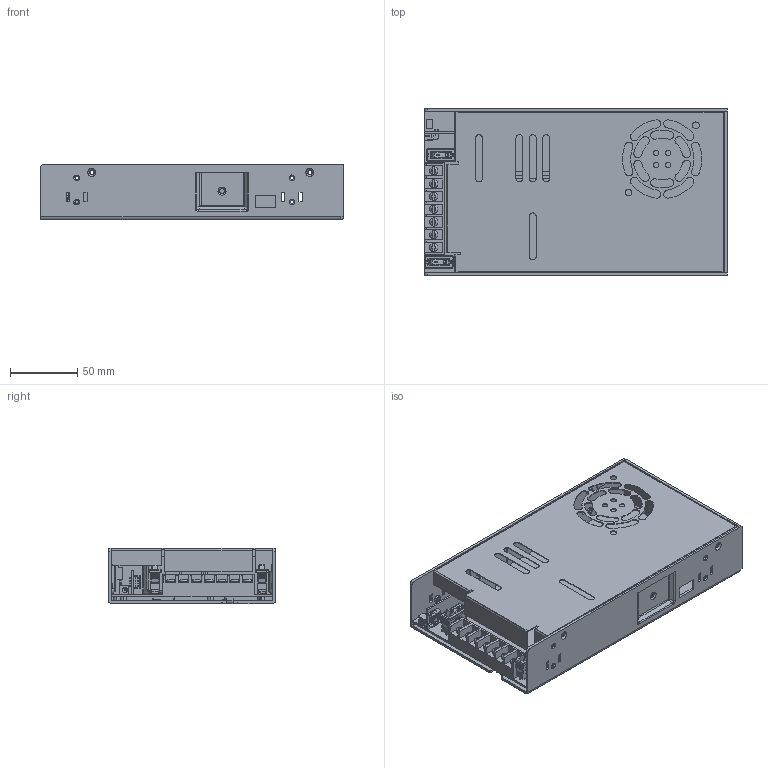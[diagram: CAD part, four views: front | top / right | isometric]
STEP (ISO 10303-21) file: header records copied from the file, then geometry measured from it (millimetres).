
FILE_DESCRIPTION(('Creo Elements/Direct Modeling STEP Export'),'2;1');
FILE_NAME('LAD-600.stp','2024-04-11T 9:49:09',(''),(''),'PTC Creo Elements/Direct Modeling STEP processor for AP214 (Solid Model)','PTC Creo Elements/Direct Modeling 19.0E 27-Jun-2016 (C) Parametric Technology GmbH','');
FILE_SCHEMA(('AUTOMOTIVE_DESIGN { 1 0 10303 214 1 1 1 1 }'));
Length unit declared in the file: millimetre
Products named in the file (42): LRS-600-D_1.PRT; LRS-600-T_1.PRT; PCB1_1_1.PRT; LRS-600_ASM_ASM_1.ASM; MOS15.5x10.1.1.1.1.1.1.1.1.1.1.1.1.1.1.1.1; 3024-K5P10T3SB05BKBK.prt; 开关; 开关左; PCBB.1; 零件1; GF063X_1-6550.PRT; GF063X_1-6890.ASM; ___.stp; 1GG1HS-SZ154_1-11310.ASM; 1GG1HS-SZ154.stp; 散热片; MOS15.5x10.1.1.1.1.1.1.1.1.1.1.1.1.1.1.1.1.1; MOS15.5x10.1.1.1.1.1.1.1.1.1.1.1.1.1.1.1.1.1.1; 装配1; MHS012_STP.ASM; MHS012-3D.stp; MHS012-3D.stp.1; PIN2-2; 零件2; LRS-600-20220302.stp; LAD-600.stp; EXTRUDED-116577.PRT; 1FF1-DH2L-04.ASM.10; EXTRUDED-118197.PRT; 1FF1-DH2L-04_2931611402.ASM.11; EXTRUDED-119827.PRT; 1FF1-DH2L-04_2895032743.ASM.12; EXTRUDED-122174.PRT; 1FF1-DH2L-04_3998119348.ASM; EXTRUDED-122858.PRT; 984338416.ASM; EXTRUDED-126350.PRT; 984338096.ASM; CN2.ASM; 8PIN__LAD-360.stp
Assembly tree (47 placements, depth 5):
  LAD-600.stp
    LRS-600-20220302.stp
      零件2
      PIN2-2
      MHS012-3D.stp.1
        MHS012_STP.ASM
      MHS012-3D.stp
        MHS012_STP.ASM
      装配1
        MOS15.5x10.1.1.1.1.1.1.1.1.1.1.1.1.1.1.1.1.1.1
        MOS15.5x10.1.1.1.1.1.1.1.1.1.1.1.1.1.1.1.1.1
        散热片
      1GG1HS-SZ154.stp
        1GG1HS-SZ154_1-11310.ASM
      ___.stp
        GF063X_1-6890.ASM
          GF063X_1-6550.PRT
      零件1
      PCBB.1
      开关左
        3024-K5P10T3SB05BKBK.prt
      开关
        3024-K5P10T3SB05BKBK.prt
      MOS15.5x10.1.1.1.1.1.1.1.1.1.1.1.1.1.1.1.1
      LRS-600_ASM_ASM_1.ASM
        PCB1_1_1.PRT
        LRS-600-T_1.PRT
        LRS-600-D_1.PRT
  8PIN__LAD-360.stp
    CN2.ASM
      984338096.ASM
        EXTRUDED-126350.PRT
      984338416.ASM
        EXTRUDED-122858.PRT
      1FF1-DH2L-04_3998119348.ASM
        EXTRUDED-122174.PRT
      1FF1-DH2L-04_2895032743.ASM.12  x2
        EXTRUDED-119827.PRT
      1FF1-DH2L-04_2931611402.ASM.11  x4
        EXTRUDED-118197.PRT
      1FF1-DH2L-04.ASM.10  x4
        EXTRUDED-116577.PRT
Bounding box: 225.16 x 124 x 41 mm (x, y, z)
Volume: 178174.5 mm3; surface area: 229814.4 mm2
Topology: 25 solids, 25 shells, 5734 faces, 16072 edges, 10579 vertices
Faces by surface type: plane 4918, cylinder 657, torus 90, bspline 27, cone 20, sphere 16, extrusion 6
Entity records: 217456 total; most frequent: CARTESIAN_POINT 33995, ORIENTED_EDGE 31392, DIRECTION 27668, EDGE_CURVE 15696, VECTOR 13926, LINE 13920, VERTEX_POINT 10339, AXIS2_PLACEMENT_3D 6871
